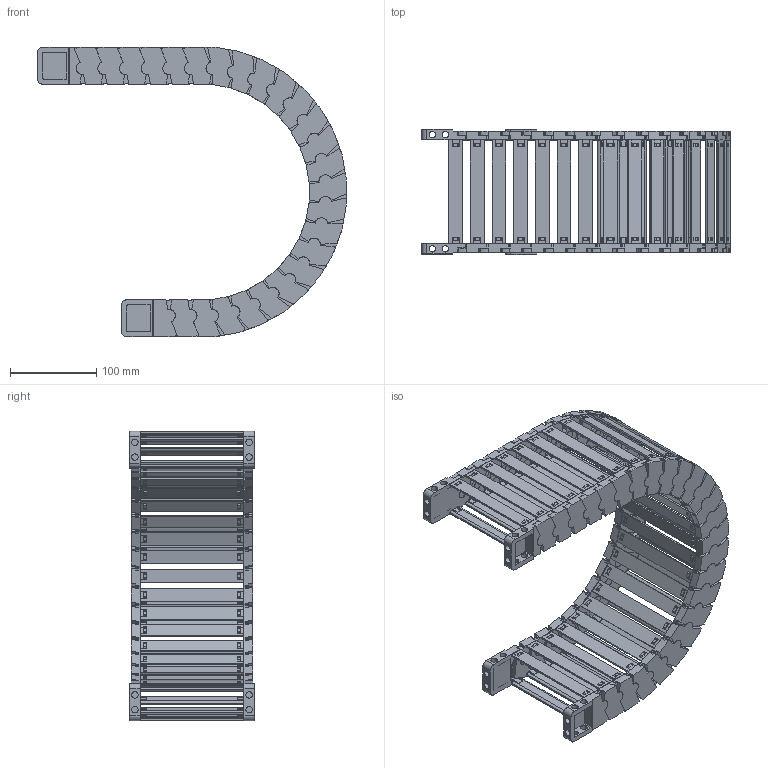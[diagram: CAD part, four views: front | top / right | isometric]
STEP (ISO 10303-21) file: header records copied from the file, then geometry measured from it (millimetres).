
FILE_DESCRIPTION((''),'2;1');
FILE_NAME('JY-35X120-R150_ASM','2022-05-06T19:49:16',('admin'),(''),'CREO PARAMETRIC BY PTC INC, 2021164','CREO PARAMETRIC BY PTC INC, 2021164','');
FILE_SCHEMA(('CONFIG_CONTROL_DESIGN','GEOMETRIC_VALIDATION_PROPERTIES_MIM'));
Length unit declared in the file: millimetre
Products named in the file (11): 35XL-L; 25-35XL-YP; 35XL-R; ASM0001_ASM; 35-LTT-A-L; 35-LTT-A-R; 35XL-LTT-A_ASM; 35-LTT-B-L; 35-LTT-B-R; 35XL-LTT-B_ASM; JY-35X120-R150_ASM
Assembly tree (39 placements, depth 3):
  JY-35X120-R150_ASM
    ASM0001_ASM  x25
      35XL-L
      25-35XL-YP
      35XL-R
    35XL-LTT-A_ASM
      35-LTT-A-L
      25-35XL-YP  x2
      35-LTT-A-R
    35XL-LTT-B_ASM
      35-LTT-B-L
      25-35XL-YP  x2
      35-LTT-B-R
Bounding box: 358.3 x 144.6 x 336.22 mm (x, y, z)
Volume: 889295.3 mm3; surface area: 558926.2 mm2
Topology: 108 solids, 108 shells, 5602 faces, 16394 edges, 10960 vertices
Faces by surface type: plane 4266, cylinder 1332, bspline 4
Entity records: 20934 total; most frequent: CARTESIAN_POINT 3255, DIRECTION 2876, ORIENTED_EDGE 2876, EDGE_CURVE 1438, VECTOR 1056, LINE 1056, VERTEX_POINT 964, AXIS2_PLACEMENT_3D 910
